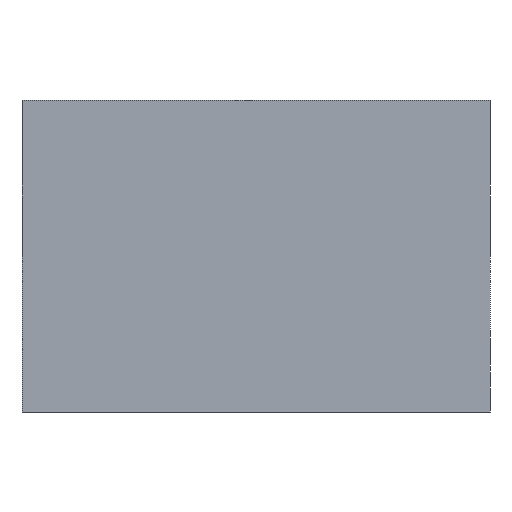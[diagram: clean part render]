
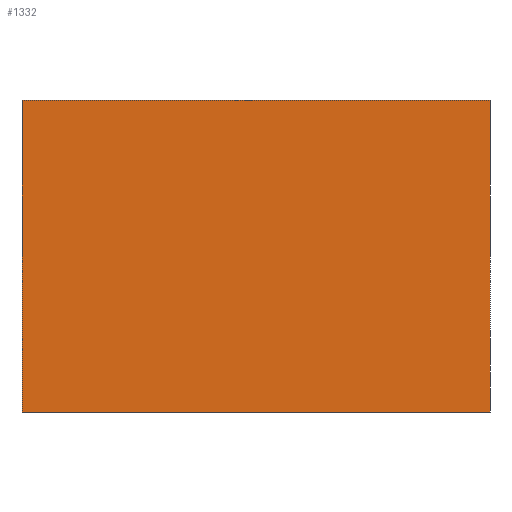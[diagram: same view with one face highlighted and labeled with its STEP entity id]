
A CAD part, left-side view. The second image highlights one B-rep face of the part: STEP entity #1332.
In plain terms, the highlighted planar face has unit normal (-1, 0, 0).
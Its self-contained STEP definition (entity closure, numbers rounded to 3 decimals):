
#70 = EDGE_CURVE ( 'NONE', #488, #516, #1548, .T. ) ;
#98 = VECTOR ( 'NONE', #712, 1000. ) ;
#104 = VERTEX_POINT ( 'NONE', #1599 ) ;
#112 = EDGE_CURVE ( 'NONE', #622, #488, #1578, .T. ) ;
#115 = CARTESIAN_POINT ( 'NONE',  ( -60., -45., -30. ) ) ;
#360 = DIRECTION ( 'NONE',  ( 0., -1., 0. ) ) ;
#381 = ORIENTED_EDGE ( 'NONE', *, *, #1190, .T. ) ;
#385 = AXIS2_PLACEMENT_3D ( 'NONE', #679, #479, #360 ) ;
#478 = DIRECTION ( 'NONE',  ( 0., -1., 0. ) ) ;
#479 = DIRECTION ( 'NONE',  ( -1., 0., 0. ) ) ;
#488 = VERTEX_POINT ( 'NONE', #2229 ) ;
#514 = LINE ( 'NONE', #841, #2258 ) ;
#516 = VERTEX_POINT ( 'NONE', #988 ) ;
#622 = VERTEX_POINT ( 'NONE', #1427 ) ;
#679 = CARTESIAN_POINT ( 'NONE',  ( -60., -45., -30. ) ) ;
#712 = DIRECTION ( 'NONE',  ( 0., -1., 0. ) ) ;
#841 = CARTESIAN_POINT ( 'NONE',  ( -60., -45., -30. ) ) ;
#859 = CARTESIAN_POINT ( 'NONE',  ( -60., -45., 30. ) ) ;
#962 = ORIENTED_EDGE ( 'NONE', *, *, #70, .F. ) ;
#988 = CARTESIAN_POINT ( 'NONE',  ( -60., -45., 30. ) ) ;
#1064 = PLANE ( 'NONE',  #385 ) ;
#1190 = EDGE_CURVE ( 'NONE', #622, #104, #1512, .T. ) ;
#1332 = ADVANCED_FACE ( 'NONE', ( #2250 ), #1064, .T. ) ;
#1387 = VECTOR ( 'NONE', #1448, 1000. ) ;
#1427 = CARTESIAN_POINT ( 'NONE',  ( -60., 45., -30. ) ) ;
#1448 = DIRECTION ( 'NONE',  ( 0., 0., 1. ) ) ;
#1512 = LINE ( 'NONE', #115, #2109 ) ;
#1548 = LINE ( 'NONE', #859, #98 ) ;
#1578 = LINE ( 'NONE', #1932, #1387 ) ;
#1599 = CARTESIAN_POINT ( 'NONE',  ( -60., -45., -30. ) ) ;
#1860 = EDGE_CURVE ( 'NONE', #104, #516, #514, .T. ) ;
#1890 = DIRECTION ( 'NONE',  ( 0., 0., 1. ) ) ;
#1932 = CARTESIAN_POINT ( 'NONE',  ( -60., 45., -30. ) ) ;
#1950 = ORIENTED_EDGE ( 'NONE', *, *, #1860, .T. ) ;
#1955 = EDGE_LOOP ( 'NONE', ( #1950, #962, #1978, #381 ) ) ;
#1978 = ORIENTED_EDGE ( 'NONE', *, *, #112, .F. ) ;
#2109 = VECTOR ( 'NONE', #478, 1000. ) ;
#2229 = CARTESIAN_POINT ( 'NONE',  ( -60., 45., 30. ) ) ;
#2250 = FACE_OUTER_BOUND ( 'NONE', #1955, .T. ) ;
#2258 = VECTOR ( 'NONE', #1890, 1000. ) ;
